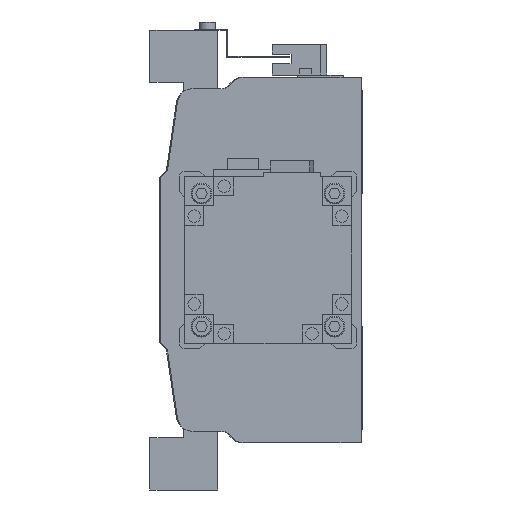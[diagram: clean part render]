
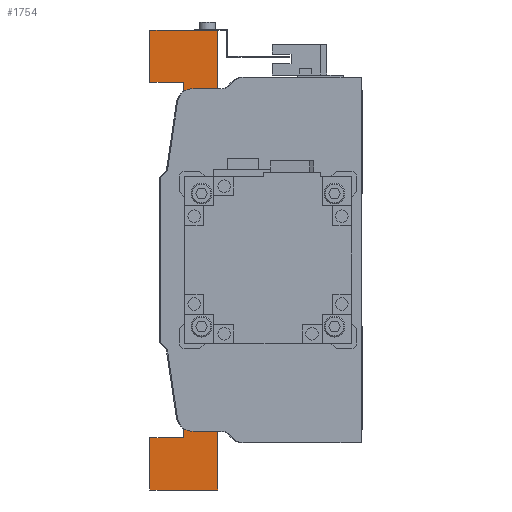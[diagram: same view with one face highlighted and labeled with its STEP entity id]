
A CAD part, left-side view. The second image highlights one B-rep face of the part: STEP entity #1754.
In plain terms, the highlighted planar face has unit normal (-1, 0, 0).
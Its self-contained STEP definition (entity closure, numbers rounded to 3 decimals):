
#1754 = ADVANCED_FACE( '', ( #3565 ), #3566, .F. );
#3565 = FACE_OUTER_BOUND( '', #5346, .T. );
#3566 = PLANE( '', #5347 );
#5346 = EDGE_LOOP( '', ( #10064, #10065, #10066, #10067, #10068, #10069, #10070, #10071, #10072, #10073, #10074, #10075, #10076, #10077, #10078, #10079 ) );
#5347 = AXIS2_PLACEMENT_3D( '', #10080, #10081, #10082 );
#10064 = ORIENTED_EDGE( '', *, *, #11593, .T. );
#10065 = ORIENTED_EDGE( '', *, *, #11141, .T. );
#10066 = ORIENTED_EDGE( '', *, *, #10271, .F. );
#10067 = ORIENTED_EDGE( '', *, *, #11771, .F. );
#10068 = ORIENTED_EDGE( '', *, *, #10935, .F. );
#10069 = ORIENTED_EDGE( '', *, *, #11901, .F. );
#10070 = ORIENTED_EDGE( '', *, *, #10963, .F. );
#10071 = ORIENTED_EDGE( '', *, *, #11975, .F. );
#10072 = ORIENTED_EDGE( '', *, *, #11814, .F. );
#10073 = ORIENTED_EDGE( '', *, *, #11375, .F. );
#10074 = ORIENTED_EDGE( '', *, *, #10190, .F. );
#10075 = ORIENTED_EDGE( '', *, *, #10707, .F. );
#10076 = ORIENTED_EDGE( '', *, *, #11025, .F. );
#10077 = ORIENTED_EDGE( '', *, *, #11806, .F. );
#10078 = ORIENTED_EDGE( '', *, *, #11039, .F. );
#10079 = ORIENTED_EDGE( '', *, *, #10889, .T. );
#10080 = CARTESIAN_POINT( '', ( -100., -56.5, 0. ) );
#10081 = DIRECTION( '', ( 1., 0., 0. ) );
#10082 = DIRECTION( '', ( 0., 0., -1. ) );
#10190 = EDGE_CURVE( '', #12057, #12058, #12059, .T. );
#10271 = EDGE_CURVE( '', #12203, #12204, #12205, .T. );
#10707 = EDGE_CURVE( '', #12975, #12057, #12976, .T. );
#10889 = EDGE_CURVE( '', #13268, #13272, #13274, .T. );
#10935 = EDGE_CURVE( '', #13344, #13345, #13346, .T. );
#10963 = EDGE_CURVE( '', #13386, #13387, #13388, .T. );
#11025 = EDGE_CURVE( '', #13486, #12975, #13487, .T. );
#11039 = EDGE_CURVE( '', #13268, #13507, #13508, .T. );
#11141 = EDGE_CURVE( '', #13659, #12204, #13660, .T. );
#11375 = EDGE_CURVE( '', #12058, #14009, #14010, .T. );
#11593 = EDGE_CURVE( '', #13272, #13659, #14299, .T. );
#11771 = EDGE_CURVE( '', #13345, #12203, #14527, .T. );
#11806 = EDGE_CURVE( '', #13507, #13486, #14570, .T. );
#11814 = EDGE_CURVE( '', #14009, #14578, #14579, .T. );
#11901 = EDGE_CURVE( '', #13387, #13344, #14679, .T. );
#11975 = EDGE_CURVE( '', #14578, #13386, #14757, .T. );
#12057 = VERTEX_POINT( '', #14847 );
#12058 = VERTEX_POINT( '', #14848 );
#12059 = LINE( '', #14849, #14850 );
#12203 = VERTEX_POINT( '', #15039 );
#12204 = VERTEX_POINT( '', #15040 );
#12205 = LINE( '', #15041, #15042 );
#12975 = VERTEX_POINT( '', #16094 );
#12976 = LINE( '', #16095, #16096 );
#13268 = VERTEX_POINT( '', #16518 );
#13272 = VERTEX_POINT( '', #16522 );
#13274 = CIRCLE( '', #16525, 31. );
#13344 = VERTEX_POINT( '', #16636 );
#13345 = VERTEX_POINT( '', #16637 );
#13346 = LINE( '', #16638, #16639 );
#13386 = VERTEX_POINT( '', #16696 );
#13387 = VERTEX_POINT( '', #16697 );
#13388 = LINE( '', #16698, #16699 );
#13486 = VERTEX_POINT( '', #16833 );
#13487 = LINE( '', #16834, #16835 );
#13507 = VERTEX_POINT( '', #16861 );
#13508 = LINE( '', #16862, #16863 );
#13659 = VERTEX_POINT( '', #17068 );
#13660 = CIRCLE( '', #17069, 31. );
#14009 = VERTEX_POINT( '', #17571 );
#14010 = LINE( '', #17572, #17573 );
#14299 = LINE( '', #17983, #17984 );
#14527 = LINE( '', #18320, #18321 );
#14570 = LINE( '', #18393, #18394 );
#14578 = VERTEX_POINT( '', #18405 );
#14579 = LINE( '', #18406, #18407 );
#14679 = LINE( '', #18540, #18541 );
#14757 = LINE( '', #18638, #18639 );
#14847 = CARTESIAN_POINT( '', ( -100., 0., -110. ) );
#14848 = CARTESIAN_POINT( '', ( -100., 0., -85. ) );
#14849 = CARTESIAN_POINT( '', ( -100., 0., -110. ) );
#14850 = VECTOR( '', #18737, 1000. );
#15039 = CARTESIAN_POINT( '', ( -100., -77.5, 34. ) );
#15040 = CARTESIAN_POINT( '', ( -100., -77.5, 22.803 ) );
#15041 = CARTESIAN_POINT( '', ( -100., -77.5, 34. ) );
#15042 = VECTOR( '', #18840, 1000. );
#16094 = CARTESIAN_POINT( '', ( -100., -32.5, -110. ) );
#16095 = CARTESIAN_POINT( '', ( -100., -32.5, -110. ) );
#16096 = VECTOR( '', #19348, 1000. );
#16518 = CARTESIAN_POINT( '', ( -100., -77.5, -22.803 ) );
#16522 = CARTESIAN_POINT( '', ( -100., -32.5, -19.622 ) );
#16525 = AXIS2_PLACEMENT_3D( '', #19552, #19553, #19554 );
#16636 = CARTESIAN_POINT( '', ( -100., -32.5, 110. ) );
#16637 = CARTESIAN_POINT( '', ( -100., -32.5, 34. ) );
#16638 = CARTESIAN_POINT( '', ( -100., -32.5, 110. ) );
#16639 = VECTOR( '', #19599, 1000. );
#16696 = CARTESIAN_POINT( '', ( -100., 0., 85. ) );
#16697 = CARTESIAN_POINT( '', ( -100., 0., 110. ) );
#16698 = CARTESIAN_POINT( '', ( -100., 0., 85. ) );
#16699 = VECTOR( '', #19626, 1000. );
#16833 = CARTESIAN_POINT( '', ( -100., -32.5, -34. ) );
#16834 = CARTESIAN_POINT( '', ( -100., -32.5, -34. ) );
#16835 = VECTOR( '', #19693, 1000. );
#16861 = CARTESIAN_POINT( '', ( -100., -77.5, -34. ) );
#16862 = CARTESIAN_POINT( '', ( -100., -77.5, -13.242 ) );
#16863 = VECTOR( '', #19709, 1000. );
#17068 = CARTESIAN_POINT( '', ( -100., -32.5, 19.622 ) );
#17069 = AXIS2_PLACEMENT_3D( '', #19815, #19816, #19817 );
#17571 = CARTESIAN_POINT( '', ( -100., -16., -85. ) );
#17572 = CARTESIAN_POINT( '', ( -100., 0., -85. ) );
#17573 = VECTOR( '', #20082, 1000. );
#17983 = CARTESIAN_POINT( '', ( -100., -32.5, -19.622 ) );
#17984 = VECTOR( '', #20282, 1000. );
#18320 = CARTESIAN_POINT( '', ( -100., -32.5, 34. ) );
#18321 = VECTOR( '', #20439, 1000. );
#18393 = CARTESIAN_POINT( '', ( -100., -77.5, -34. ) );
#18394 = VECTOR( '', #20466, 1000. );
#18405 = CARTESIAN_POINT( '', ( -100., -16., 85. ) );
#18406 = CARTESIAN_POINT( '', ( -100., -16., -85. ) );
#18407 = VECTOR( '', #20470, 1000. );
#18540 = CARTESIAN_POINT( '', ( -100., 0., 110. ) );
#18541 = VECTOR( '', #20528, 1000. );
#18638 = CARTESIAN_POINT( '', ( -100., -16., 85. ) );
#18639 = VECTOR( '', #20566, 1000. );
#18737 = DIRECTION( '', ( 0., 0., 1. ) );
#18840 = DIRECTION( '', ( 0., 0., -1. ) );
#19348 = DIRECTION( '', ( 0., 1., 0. ) );
#19552 = CARTESIAN_POINT( '', ( -100., -56.5, 0. ) );
#19553 = DIRECTION( '', ( 1., 0., 0. ) );
#19554 = DIRECTION( '', ( 0., 0., -1. ) );
#19599 = DIRECTION( '', ( 0., 0., -1. ) );
#19626 = DIRECTION( '', ( 0., 0., 1. ) );
#19693 = DIRECTION( '', ( 0., 0., -1. ) );
#19709 = DIRECTION( '', ( 0., 0., -1. ) );
#19815 = CARTESIAN_POINT( '', ( -100., -56.5, 0. ) );
#19816 = DIRECTION( '', ( 1., 0., 0. ) );
#19817 = DIRECTION( '', ( 0., 0., -1. ) );
#20082 = DIRECTION( '', ( 0., -1., 0. ) );
#20282 = DIRECTION( '', ( 0., 0., 1. ) );
#20439 = DIRECTION( '', ( 0., -1., 0. ) );
#20466 = DIRECTION( '', ( 0., 1., 0. ) );
#20470 = DIRECTION( '', ( 0., 0., 1. ) );
#20528 = DIRECTION( '', ( 0., -1., 0. ) );
#20566 = DIRECTION( '', ( 0., 1., 0. ) );
